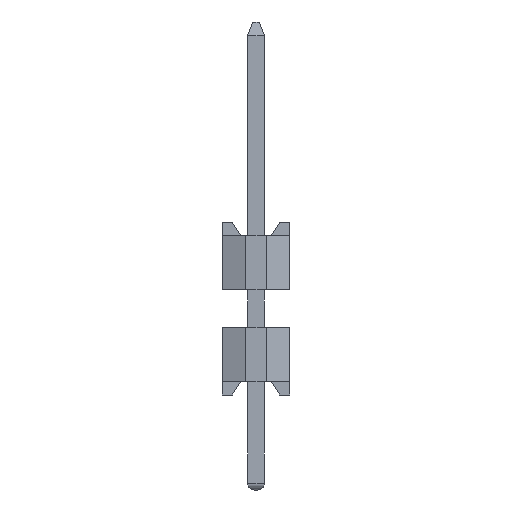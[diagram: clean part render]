
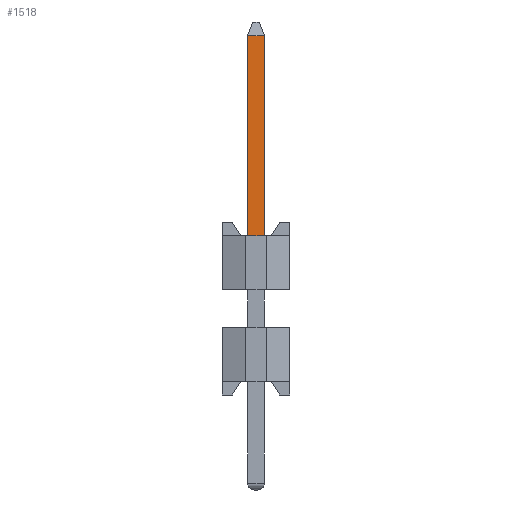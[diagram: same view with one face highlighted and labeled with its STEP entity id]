
A CAD part, left-side view. The second image highlights one B-rep face of the part: STEP entity #1518.
In plain terms, the highlighted planar face has unit normal (-1, 0, 0).
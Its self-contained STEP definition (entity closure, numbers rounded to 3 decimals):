
#1518=ADVANCED_FACE('',(#4990),#3182,.T.);
#3182=PLANE('',#36323);
#4990=FACE_OUTER_BOUND('',#6942,.T.);
#6942=EDGE_LOOP('',(#14490,#14491,#14492,#14493));
#14490=ORIENTED_EDGE('',*,*,#24592,.F.);
#14491=ORIENTED_EDGE('',*,*,#24586,.T.);
#14492=ORIENTED_EDGE('',*,*,#24593,.T.);
#14493=ORIENTED_EDGE('',*,*,#24594,.F.);
#20254=VERTEX_POINT('',#53437);
#20255=VERTEX_POINT('',#53438);
#20258=VERTEX_POINT('',#53449);
#20259=VERTEX_POINT('',#53451);
#24586=EDGE_CURVE('',#20254,#20255,#29350,.T.);
#24592=EDGE_CURVE('',#20254,#20258,#29356,.T.);
#24593=EDGE_CURVE('',#20255,#20259,#29357,.T.);
#24594=EDGE_CURVE('',#20258,#20259,#29358,.T.);
#29350=LINE('',#53436,#34114);
#29356=LINE('',#53448,#34120);
#29357=LINE('',#53450,#34121);
#29358=LINE('',#53452,#34122);
#34114=VECTOR('',#43221,1.);
#34120=VECTOR('',#43231,1.);
#34121=VECTOR('',#43232,1.);
#34122=VECTOR('',#43233,1.);
#36323=AXIS2_PLACEMENT_3D('',#53453,#43234,#43235);
#43221=DIRECTION('',(0.,-1.,0.));
#43231=DIRECTION('',(0.,0.,1.));
#43232=DIRECTION('',(0.,0.,1.));
#43233=DIRECTION('',(0.,-1.,0.));
#43234=DIRECTION('',(-1.,0.,0.));
#43235=DIRECTION('',(0.,0.,-1.));
#53436=CARTESIAN_POINT('',(0.75,1.25,4.3));
#53437=CARTESIAN_POINT('',(0.75,1.25,4.3));
#53438=CARTESIAN_POINT('',(0.75,0.75,4.3));
#53448=CARTESIAN_POINT('',(0.75,1.25,10.6));
#53449=CARTESIAN_POINT('',(0.75,1.25,10.2));
#53450=CARTESIAN_POINT('',(0.75,0.75,10.6));
#53451=CARTESIAN_POINT('',(0.75,0.75,10.2));
#53452=CARTESIAN_POINT('',(0.75,1.25,10.2));
#53453=CARTESIAN_POINT('',(0.75,1.25,4.3));
